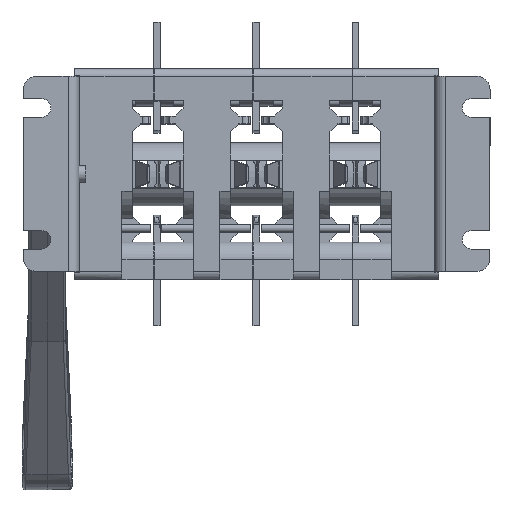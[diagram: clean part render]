
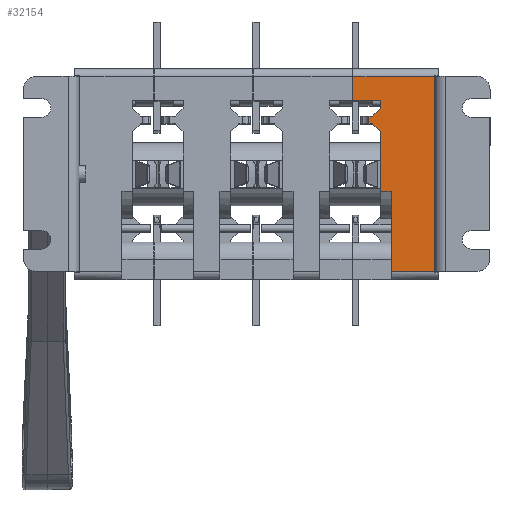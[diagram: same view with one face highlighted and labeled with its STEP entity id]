
A CAD part, top view. The second image highlights one B-rep face of the part: STEP entity #32154.
In plain terms, the highlighted planar face has unit normal (0, 0, 1) as drawn and (0, -1, 0) by its records, which use the part's own axes.
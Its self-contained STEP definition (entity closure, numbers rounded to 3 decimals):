
#534 = VERTEX_POINT ( 'NONE', #31550 ) ;
#535 = LINE ( 'NONE', #32389, #44424 ) ;
#604 = FACE_OUTER_BOUND ( 'NONE', #29625, .T. ) ;
#606 = LINE ( 'NONE', #42025, #15918 ) ;
#1688 = CARTESIAN_POINT ( 'NONE',  ( 6.5, -17.5, -7. ) ) ;
#1770 = LINE ( 'NONE', #11098, #32467 ) ;
#2568 = EDGE_CURVE ( 'NONE', #28507, #13804, #30728, .T. ) ;
#2774 = VERTEX_POINT ( 'NONE', #32497 ) ;
#2979 = DIRECTION ( 'NONE',  ( 1., 0., 0. ) ) ;
#3722 = DIRECTION ( 'NONE',  ( -1., 0., 0. ) ) ;
#4046 = ORIENTED_EDGE ( 'NONE', *, *, #9566, .T. ) ;
#4116 = CARTESIAN_POINT ( 'NONE',  ( -28., -17.5, -12.2 ) ) ;
#4174 = EDGE_CURVE ( 'NONE', #26196, #9822, #13461, .T. ) ;
#4269 = EDGE_CURVE ( 'NONE', #10547, #534, #16170, .T. ) ;
#4717 = ORIENTED_EDGE ( 'NONE', *, *, #4269, .T. ) ;
#5616 = VERTEX_POINT ( 'NONE', #27682 ) ;
#6486 = VERTEX_POINT ( 'NONE', #11747 ) ;
#6600 = VERTEX_POINT ( 'NONE', #29588 ) ;
#6620 = EDGE_CURVE ( 'NONE', #26925, #42485, #43945, .T. ) ;
#6762 = ORIENTED_EDGE ( 'NONE', *, *, #44390, .T. ) ;
#7349 = ORIENTED_EDGE ( 'NONE', *, *, #14460, .F. ) ;
#7537 = LINE ( 'NONE', #9805, #12398 ) ;
#7569 = ORIENTED_EDGE ( 'NONE', *, *, #24561, .F. ) ;
#7808 = CARTESIAN_POINT ( 'NONE',  ( -19., -17.5, -26.869 ) ) ;
#8230 = ORIENTED_EDGE ( 'NONE', *, *, #24626, .F. ) ;
#8412 = DIRECTION ( 'NONE',  ( 0., 0., 1. ) ) ;
#8432 = VECTOR ( 'NONE', #24553, 1000. ) ;
#9134 = VECTOR ( 'NONE', #21815, 1000. ) ;
#9566 = EDGE_CURVE ( 'NONE', #6486, #28507, #1770, .T. ) ;
#9805 = CARTESIAN_POINT ( 'NONE',  ( -37., -17.5, 16.5 ) ) ;
#9822 = VERTEX_POINT ( 'NONE', #20004 ) ;
#9972 = DIRECTION ( 'NONE',  ( 1., 0., 0. ) ) ;
#10488 = VECTOR ( 'NONE', #2979, 1000. ) ;
#10547 = VERTEX_POINT ( 'NONE', #44457 ) ;
#11098 = CARTESIAN_POINT ( 'NONE',  ( -26.243, -17.5, -8.5 ) ) ;
#11322 = DIRECTION ( 'NONE',  ( 0., 0., 1. ) ) ;
#11594 = EDGE_CURVE ( 'NONE', #26196, #6600, #44363, .T. ) ;
#11747 = CARTESIAN_POINT ( 'NONE',  ( -22., -17.5, -8.5 ) ) ;
#12398 = VECTOR ( 'NONE', #9972, 1000. ) ;
#12606 = ORIENTED_EDGE ( 'NONE', *, *, #41718, .F. ) ;
#13461 = LINE ( 'NONE', #38880, #16756 ) ;
#13804 = VERTEX_POINT ( 'NONE', #39072 ) ;
#14412 = DIRECTION ( 'NONE',  ( 0., 0., 1. ) ) ;
#14460 = EDGE_CURVE ( 'NONE', #26925, #25597, #606, .T. ) ;
#14543 = AXIS2_PLACEMENT_3D ( 'NONE', #43051, #29295, #14701 ) ;
#14701 = DIRECTION ( 'NONE',  ( 0., 0., 1. ) ) ;
#15918 = VECTOR ( 'NONE', #3722, 1000. ) ;
#16170 = LINE ( 'NONE', #31234, #21155 ) ;
#16756 = VECTOR ( 'NONE', #24834, 1000. ) ;
#16844 = EDGE_CURVE ( 'NONE', #10547, #2774, #7537, .T. ) ;
#17737 = DIRECTION ( 'NONE',  ( 0., 0., -1. ) ) ;
#19304 = EDGE_CURVE ( 'NONE', #42485, #42211, #19865, .T. ) ;
#19865 = LINE ( 'NONE', #21081, #10488 ) ;
#20004 = CARTESIAN_POINT ( 'NONE',  ( -22., -17.5, -7. ) ) ;
#20131 = ORIENTED_EDGE ( 'NONE', *, *, #11594, .F. ) ;
#21081 = CARTESIAN_POINT ( 'NONE',  ( -37., -17.5, 0. ) ) ;
#21155 = VECTOR ( 'NONE', #17737, 1000. ) ;
#21305 = ORIENTED_EDGE ( 'NONE', *, *, #6620, .T. ) ;
#21405 = VECTOR ( 'NONE', #14412, 1000. ) ;
#21460 = DIRECTION ( 'NONE',  ( 0., 0., 1. ) ) ;
#21815 = DIRECTION ( 'NONE',  ( 0.707, 0., 0.707 ) ) ;
#23490 = ORIENTED_EDGE ( 'NONE', *, *, #2568, .T. ) ;
#24034 = ORIENTED_EDGE ( 'NONE', *, *, #33616, .T. ) ;
#24533 = CARTESIAN_POINT ( 'NONE',  ( -19., -17.5, -8.5 ) ) ;
#24553 = DIRECTION ( 'NONE',  ( 0., 0., -1. ) ) ;
#24561 = EDGE_CURVE ( 'NONE', #6486, #9822, #535, .T. ) ;
#24626 = EDGE_CURVE ( 'NONE', #5616, #534, #42204, .T. ) ;
#24834 = DIRECTION ( 'NONE',  ( 0.707, 0., -0.707 ) ) ;
#25553 = DIRECTION ( 'NONE',  ( 1., 0., 0. ) ) ;
#25597 = VERTEX_POINT ( 'NONE', #35196 ) ;
#26196 = VERTEX_POINT ( 'NONE', #34736 ) ;
#26925 = VERTEX_POINT ( 'NONE', #29915 ) ;
#27682 = CARTESIAN_POINT ( 'NONE',  ( -28., -17.5, -14.5 ) ) ;
#28507 = VERTEX_POINT ( 'NONE', #24533 ) ;
#29295 = DIRECTION ( 'NONE',  ( 0., 1., 0. ) ) ;
#29588 = CARTESIAN_POINT ( 'NONE',  ( -28., -17.5, -4. ) ) ;
#29625 = EDGE_LOOP ( 'NONE', ( #7569, #4046, #23490, #6762, #7349, #21305, #31136, #12606, #35589, #4717, #8230, #24034, #20131, #39641 ) ) ;
#29915 = CARTESIAN_POINT ( 'NONE',  ( 6.5, -17.5, -4. ) ) ;
#30728 = LINE ( 'NONE', #7808, #21405 ) ;
#31136 = ORIENTED_EDGE ( 'NONE', *, *, #19304, .T. ) ;
#31234 = CARTESIAN_POINT ( 'NONE',  ( -37., -17.5, 18. ) ) ;
#31550 = CARTESIAN_POINT ( 'NONE',  ( -37., -17.5, -14.5 ) ) ;
#31825 = VECTOR ( 'NONE', #32985, 1000. ) ;
#32154 = ADVANCED_FACE ( 'NONE', ( #604 ), #35716, .F. ) ;
#32222 = CARTESIAN_POINT ( 'NONE',  ( -15.5, -17.5, -3.5 ) ) ;
#32389 = CARTESIAN_POINT ( 'NONE',  ( -22., -17.5, -26.869 ) ) ;
#32467 = VECTOR ( 'NONE', #25553, 1000. ) ;
#32497 = CARTESIAN_POINT ( 'NONE',  ( 37., -17.5, 16.5 ) ) ;
#32772 = LINE ( 'NONE', #4116, #39900 ) ;
#32985 = DIRECTION ( 'NONE',  ( -1., 0., 0. ) ) ;
#33616 = EDGE_CURVE ( 'NONE', #5616, #6600, #32772, .T. ) ;
#34736 = CARTESIAN_POINT ( 'NONE',  ( -25., -17.5, -4. ) ) ;
#34878 = CARTESIAN_POINT ( 'NONE',  ( 6.5, -17.5, 0. ) ) ;
#35196 = CARTESIAN_POINT ( 'NONE',  ( -16., -17.5, -4. ) ) ;
#35589 = ORIENTED_EDGE ( 'NONE', *, *, #16844, .F. ) ;
#35716 = PLANE ( 'NONE',  #14543 ) ;
#36296 = VECTOR ( 'NONE', #8412, 1000. ) ;
#37036 = CARTESIAN_POINT ( 'NONE',  ( 37., -17.5, 0. ) ) ;
#37803 = VECTOR ( 'NONE', #42982, 1000. ) ;
#38804 = LINE ( 'NONE', #32222, #9134 ) ;
#38880 = CARTESIAN_POINT ( 'NONE',  ( -42., -17.5, 13. ) ) ;
#39072 = CARTESIAN_POINT ( 'NONE',  ( -19., -17.5, -7. ) ) ;
#39641 = ORIENTED_EDGE ( 'NONE', *, *, #4174, .T. ) ;
#39769 = CARTESIAN_POINT ( 'NONE',  ( -22., -17.5, -4. ) ) ;
#39900 = VECTOR ( 'NONE', #21460, 1000. ) ;
#41521 = CARTESIAN_POINT ( 'NONE',  ( 37., -17.5, 18. ) ) ;
#41718 = EDGE_CURVE ( 'NONE', #2774, #42211, #45197, .T. ) ;
#42025 = CARTESIAN_POINT ( 'NONE',  ( 6.5, -17.5, -4. ) ) ;
#42204 = LINE ( 'NONE', #43681, #31825 ) ;
#42211 = VERTEX_POINT ( 'NONE', #37036 ) ;
#42485 = VERTEX_POINT ( 'NONE', #34878 ) ;
#42982 = DIRECTION ( 'NONE',  ( -1., 0., 0. ) ) ;
#43051 = CARTESIAN_POINT ( 'NONE',  ( -37., -17.5, 18. ) ) ;
#43681 = CARTESIAN_POINT ( 'NONE',  ( -28., -17.5, -14.5 ) ) ;
#43945 = LINE ( 'NONE', #1688, #36296 ) ;
#44363 = LINE ( 'NONE', #39769, #37803 ) ;
#44390 = EDGE_CURVE ( 'NONE', #13804, #25597, #38804, .T. ) ;
#44424 = VECTOR ( 'NONE', #11322, 1000. ) ;
#44457 = CARTESIAN_POINT ( 'NONE',  ( -37., -17.5, 16.5 ) ) ;
#45197 = LINE ( 'NONE', #41521, #8432 ) ;
